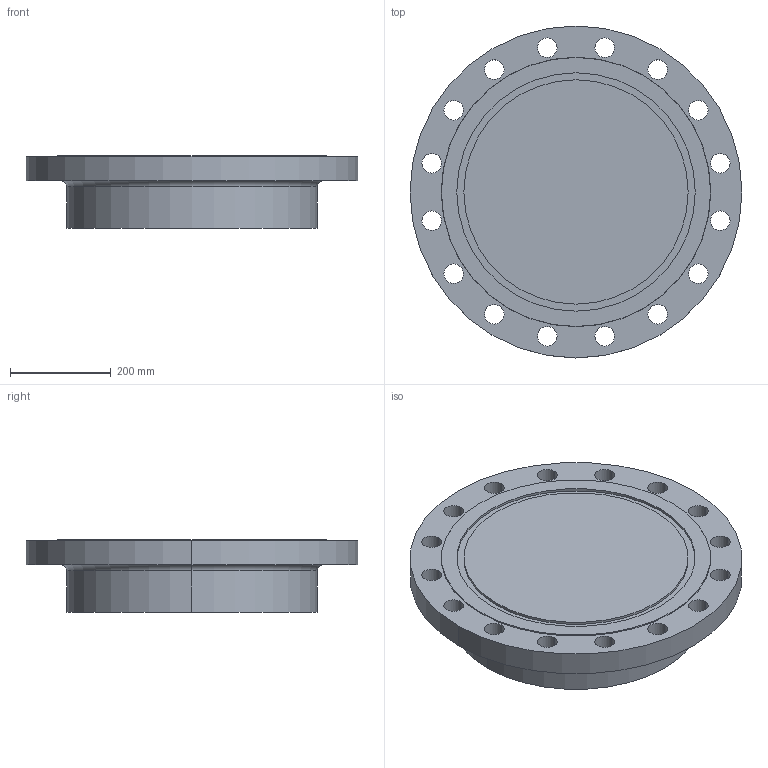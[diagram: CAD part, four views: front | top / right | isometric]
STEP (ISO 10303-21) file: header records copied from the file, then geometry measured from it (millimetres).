
FILE_DESCRIPTION (( 'STEP AP214' ), '1' );
FILE_NAME ('PN40 DN400 Type 21(i) - Type D Face.STEP', '2019-01-05T23:13:34', ( '' ), ( '' ), 'SwSTEP 2.0', 'SolidWorks 2019', '' );
FILE_SCHEMA (( 'AUTOMOTIVE_DESIGN' ));
Length unit declared in the file: millimetre
Products named in the file (1): PN40 DN400 Type 21(i) - Type D Face
Bounding box: 660 x 660 x 145 mm (x, y, z)
Volume: 34406469.7 mm3; surface area: 997543.3 mm2
Topology: 1 solids, 1 shells, 50 faces, 130 edges, 86 vertices
Faces by surface type: cylinder 40, plane 6, torus 2, cone 2
Entity records: 1684 total; most frequent: DIRECTION 320, CARTESIAN_POINT 267, ORIENTED_EDGE 260, AXIS2_PLACEMENT_3D 139, EDGE_CURVE 130, CIRCLE 88, EDGE_LOOP 86, VERTEX_POINT 86
